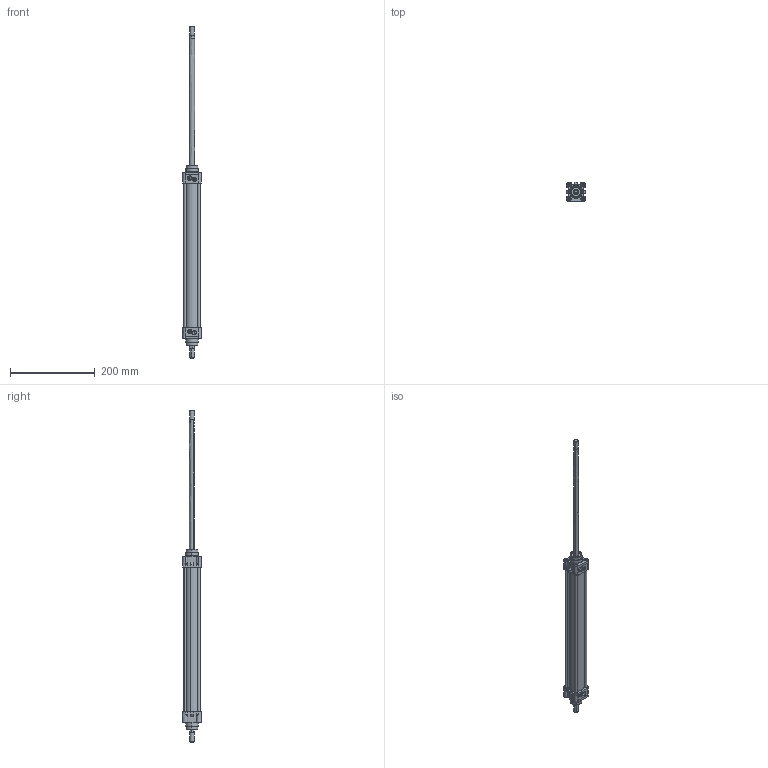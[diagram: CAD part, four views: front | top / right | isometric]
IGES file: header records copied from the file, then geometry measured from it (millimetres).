
Start section: SolidWorks IGES file using analytic representation for surfaces
Global section: file name: D:\ARICA 3D 禽Z軲LER\3D IGES\TDNC 禽FT M軱L輁TDNC32\TDNC32X300CIFTMILLI-CYLINDER.IGS; native system: SolidWorks 2013; preprocessor: SolidWorks 2013; author: user; date: 150328.095048; units: millimetre
Bounding box: 44.45 x 44.65 x 785 mm (x, y, z)
Surface area: 184625.7 mm2 (no closed solid volume)
Topology: 0 solids, 0 shells, 923 faces, 13414 edges, 13366 vertices
Faces by surface type: revolution 490, bspline 433
